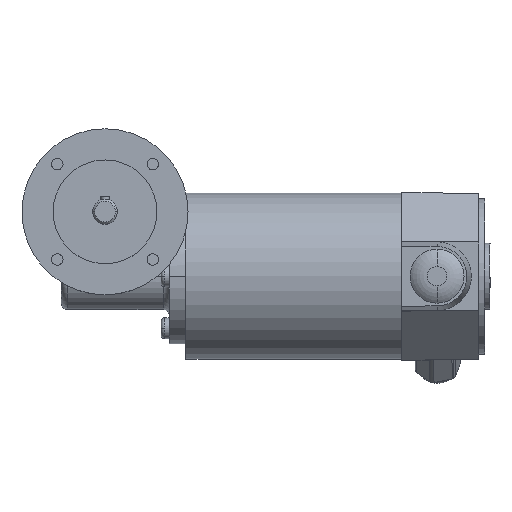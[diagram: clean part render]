
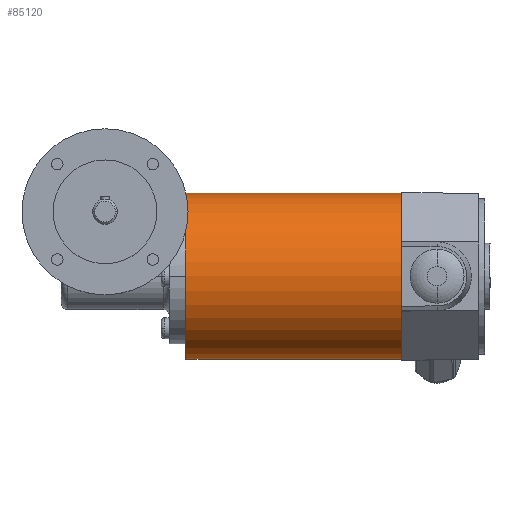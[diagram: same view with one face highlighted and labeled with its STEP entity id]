
A CAD part, top view. The second image highlights one B-rep face of the part: STEP entity #85120.
In plain terms, the highlighted cylindrical face has radius 40 mm (diameter 80 mm), a partial arc.
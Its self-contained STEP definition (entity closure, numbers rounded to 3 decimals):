
#9380=CARTESIAN_POINT('',(-51.325,455.,
-0.185));
#9390=DIRECTION('',(-0.026,0.,
1.));
#9400=DIRECTION('',(1.,0.,
0.026));
#9410=AXIS2_PLACEMENT_3D('',#9380,#9390,#9400);
#9420=CIRCLE('',#9410,40.);
#9430=CARTESIAN_POINT('',(-11.339,455.,
0.862));
#9440=VERTEX_POINT('',#9430);
#9450=CARTESIAN_POINT('',(-91.312,455.,
-1.232));
#9460=VERTEX_POINT('',#9450);
#9470=EDGE_CURVE('',#9440,#9460,#9420,.T.);
#32120=CARTESIAN_POINT('',(-48.603,455.,
-104.15));
#32130=DIRECTION('',(-0.026,0.,
1.));
#32140=DIRECTION('',(1.,0.,
0.026));
#32150=AXIS2_PLACEMENT_3D('',#32120,#32130,#32140);
#32160=CIRCLE('',#32150,40.);
#32170=CARTESIAN_POINT('',(-8.617,455.,
-103.102));
#32180=VERTEX_POINT('',#32170);
#32190=CARTESIAN_POINT('',(-88.589,455.,
-105.197));
#32200=VERTEX_POINT('',#32190);
#32210=EDGE_CURVE('',#32180,#32200,#32160,.T.);
#33860=CARTESIAN_POINT('',(-48.603,455.,
-104.15));
#33870=DIRECTION('',(-0.026,0.,
1.));
#33880=DIRECTION('',(1.,0.,
0.026));
#33890=AXIS2_PLACEMENT_3D('',#33860,#33870,#33880);
#33900=CYLINDRICAL_SURFACE('',#33890,40.);
#33910=CARTESIAN_POINT('',(-8.617,455.,
-103.102));
#33920=DIRECTION('',(-0.026,0.,
1.));
#33930=VECTOR('',#33920,1.);
#33940=LINE('',#33910,#33930);
#33950=EDGE_CURVE('',#32180,#9440,#33940,.T.);
#33980=CARTESIAN_POINT('',(-88.589,455.,
-105.197));
#33990=DIRECTION('',(-0.026,0.,
1.));
#34000=VECTOR('',#33990,1.);
#34010=LINE('',#33980,#34000);
#34020=EDGE_CURVE('',#32200,#9460,#34010,.T.);
#85060=ORIENTED_EDGE('',*,*,#9470,.F.);
#85070=ORIENTED_EDGE('',*,*,#34020,.T.);
#85080=ORIENTED_EDGE('',*,*,#32210,.T.);
#85090=ORIENTED_EDGE('',*,*,#33950,.F.);
#85100=EDGE_LOOP('',(#85090,#85080,#85070,#85060));
#85110=FACE_OUTER_BOUND('',#85100,.T.);
#85120=ADVANCED_FACE('',(#85110),#33900,.T.);
